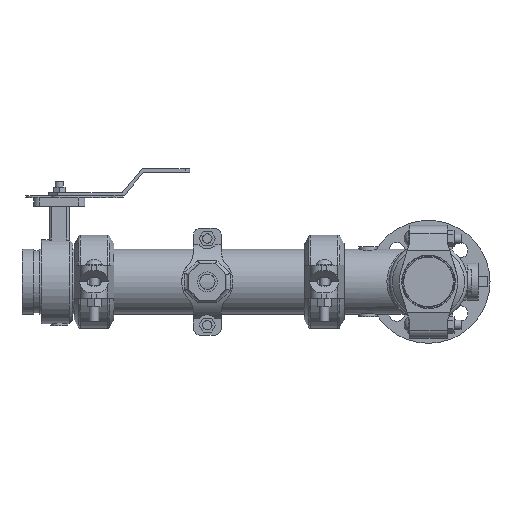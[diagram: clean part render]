
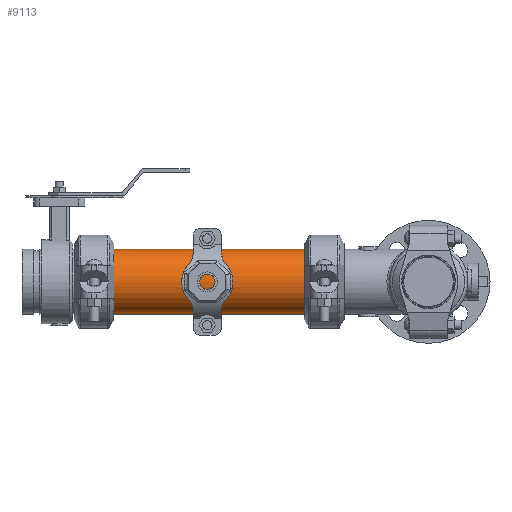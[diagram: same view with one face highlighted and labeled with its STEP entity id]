
A CAD part, left-side view. The second image highlights one B-rep face of the part: STEP entity #9113.
In plain terms, the highlighted cylindrical face has radius 44.45 mm (diameter 88.9 mm), a full revolution.
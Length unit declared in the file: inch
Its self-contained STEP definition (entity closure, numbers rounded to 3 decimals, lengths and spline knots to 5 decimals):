
#779=FACE_OUTER_BOUND('',#1319,.T.);
#1319=EDGE_LOOP('',(#6595,#6596,#6597,#6598,#6599,#6600));
#1929=CIRCLE('',#10020,1.75);
#1930=CIRCLE('',#10021,1.75);
#1931=CIRCLE('',#10023,1.75);
#1932=CIRCLE('',#10024,1.75);
#2422=LINE('',#15156,#3085);
#3085=VECTOR('',#11653,1.75);
#3857=VERTEX_POINT('',#15147);
#3858=VERTEX_POINT('',#15148);
#3859=VERTEX_POINT('',#15152);
#3860=VERTEX_POINT('',#15153);
#4861=EDGE_CURVE('',#3857,#3858,#1929,.T.);
#4862=EDGE_CURVE('',#3858,#3857,#1930,.T.);
#4863=EDGE_CURVE('',#3859,#3860,#1931,.T.);
#4864=EDGE_CURVE('',#3860,#3859,#1932,.T.);
#4865=EDGE_CURVE('',#3860,#3858,#2422,.T.);
#6595=ORIENTED_EDGE('',*,*,#4863,.F.);
#6596=ORIENTED_EDGE('',*,*,#4864,.F.);
#6597=ORIENTED_EDGE('',*,*,#4865,.T.);
#6598=ORIENTED_EDGE('',*,*,#4862,.T.);
#6599=ORIENTED_EDGE('',*,*,#4861,.T.);
#6600=ORIENTED_EDGE('',*,*,#4865,.F.);
#8327=CYLINDRICAL_SURFACE('',#10022,1.75);
#9113=ADVANCED_FACE('',(#779),#8327,.T.);
#10020=AXIS2_PLACEMENT_3D('',#15149,#11643,#11644);
#10021=AXIS2_PLACEMENT_3D('',#15150,#11645,#11646);
#10022=AXIS2_PLACEMENT_3D('',#15151,#11647,#11648);
#10023=AXIS2_PLACEMENT_3D('',#15154,#11649,#11650);
#10024=AXIS2_PLACEMENT_3D('',#15155,#11651,#11652);
#11643=DIRECTION('center_axis',(0.,-1.,0.));
#11644=DIRECTION('ref_axis',(1.,0.,0.));
#11645=DIRECTION('center_axis',(0.,-1.,0.));
#11646=DIRECTION('ref_axis',(1.,0.,0.));
#11647=DIRECTION('center_axis',(0.,-1.,0.));
#11648=DIRECTION('ref_axis',(1.,0.,0.));
#11649=DIRECTION('center_axis',(0.,-1.,0.));
#11650=DIRECTION('ref_axis',(1.,0.,0.));
#11651=DIRECTION('center_axis',(0.,-1.,0.));
#11652=DIRECTION('ref_axis',(1.,0.,0.));
#11653=DIRECTION('',(0.,1.,0.));
#15147=CARTESIAN_POINT('',(1.75,5.142,0.));
#15148=CARTESIAN_POINT('',(-1.75,5.142,0.));
#15149=CARTESIAN_POINT('Origin',(0.,5.142,0.));
#15150=CARTESIAN_POINT('Origin',(0.,5.142,0.));
#15151=CARTESIAN_POINT('Origin',(0.,0.,
0.));
#15152=CARTESIAN_POINT('',(1.75,-5.142,0.));
#15153=CARTESIAN_POINT('',(-1.75,-5.142,0.));
#15154=CARTESIAN_POINT('Origin',(0.,-5.142,0.));
#15155=CARTESIAN_POINT('Origin',(0.,-5.142,0.));
#15156=CARTESIAN_POINT('',(-1.75,0.,0.));
